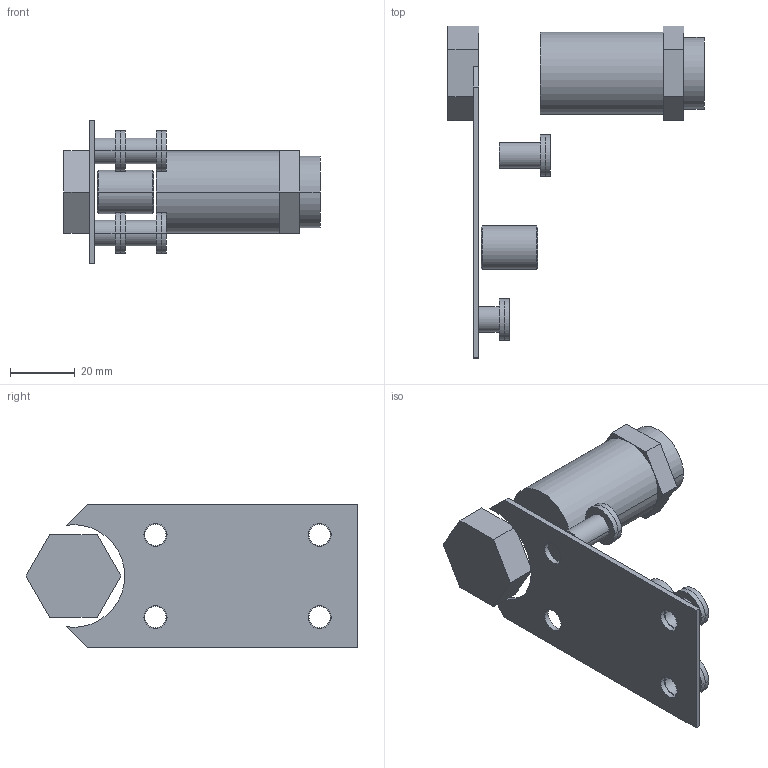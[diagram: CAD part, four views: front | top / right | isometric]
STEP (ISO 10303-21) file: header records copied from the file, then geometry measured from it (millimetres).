
FILE_DESCRIPTION((''),'2;1');
FILE_NAME('UMR2_ASM','2017-08-24T',('jennifer.elliott'),('CenterLine (Windsor) Ltd - Automation Components Division'),'PRO/ENGINEER BY PARAMETRIC TECHNOLOGY CORPORATION, 2015030','PRO/ENGINEER BY PARAMETRIC TECHNOLOGY CORPORATION, 2015030','');
FILE_SCHEMA(('AUTOMOTIVE_DESIGN { 1 0 10303 214 1 1 1 1 }'));
Length unit declared in the file: inch
Products named in the file (24): PRT0769; PRT0770; PRT0771; PRT0772; PRT0773; PRT0774; PRT0775; PRT0776; PRT0777; PRT0778; PRT0779; PRT0780; PRT0781; PRT0782; PRT0783; PRT0784; PRT0785; PRT0786; PRT0787; PRT0788; PRT0789; PRT0790; PRT0791; UMR2_ASM
Assembly tree (23 placements, depth 2):
  UMR2_ASM
    PRT0769
    PRT0770
    PRT0771
    PRT0772
    PRT0773
    PRT0774
    PRT0775
    PRT0776
    PRT0777
    PRT0778
    PRT0779
    PRT0780
    PRT0781
    PRT0782
    PRT0783
    PRT0784
    PRT0785
    PRT0786
    PRT0787
    PRT0788
    PRT0789
    PRT0790
    PRT0791
Bounding box: 79.38 x 102.74 x 44.45 mm (x, y, z)
Volume: 38578.5 mm3; surface area: 21568.1 mm2
Topology: 14 solids, 14 shells, 114 faces, 238 edges, 156 vertices
Faces by surface type: cylinder 57, plane 49, cone 8
Entity records: 4296 total; most frequent: DIRECTION 682, CARTESIAN_POINT 598, ORIENTED_EDGE 476, AXIS2_PLACEMENT_3D 283, EDGE_CURVE 238, VERTEX_POINT 156, EDGE_LOOP 144, CIRCLE 122
